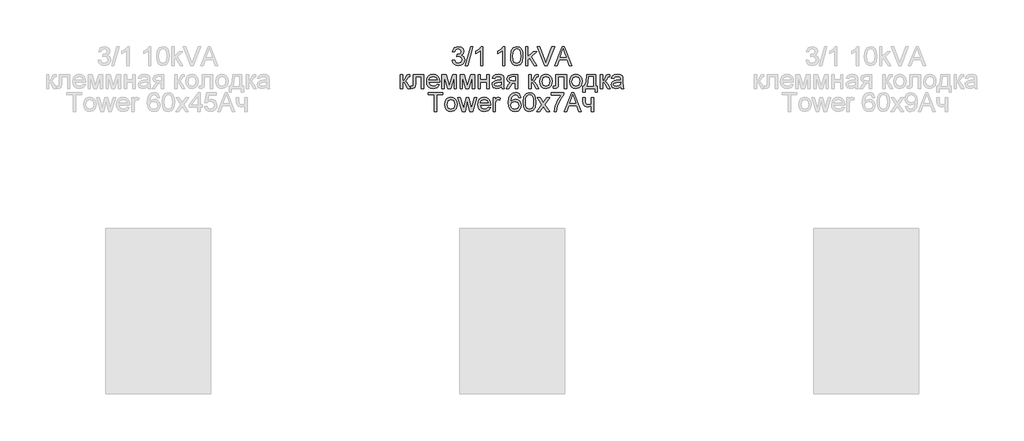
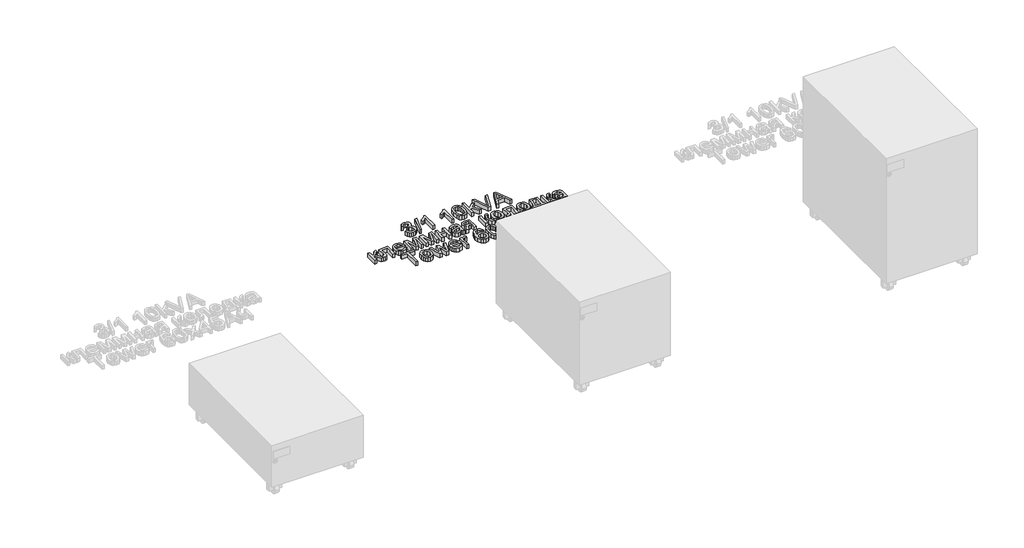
# One storey, part 34 of 74: 1 proxy.
"""IFC4 building model written with IfcOpenShell, lengths in millimetres."""

from ifc_helpers import new_model, si_unit, origin, origin_with_axes, place, context, project, spatial, polyline, outline, extrude, element, save

model = new_model("IFC4")

# Units and contexts
model_context = context("Model", 3, world=origin())
ifc_project = project(units=[si_unit("LENGTHUNIT", "METRE", prefix="MILLI")], contexts=[model_context])

# Site, building, storey
site = spatial("IfcSite", under=ifc_project)
building = spatial("IfcBuilding", under=site)
storey = spatial("IfcBuildingStorey", under=building, Name="Этаж 01", Elevation=0.0)

# Proxy
placement = place(None, origin())
element("IfcBuildingElementProxy", 1, Name="80 мм Arial", ObjectType="80 мм Arial", at=placement, inside=storey, context=model_context, shape_type="SweptSolid", body=[
    extrude(outline(polyline([(2598.3137414, -15105.2863601), (2608.3593724, -15104.0306562), (2613.9021278, -15114.6060373), (2624.2714949, -15117.8433988), (2636.475367, -15113.3895741), (2641.0076732, -15102.3629245), (2636.5146077, -15091.9739369), (2625.0955506, -15087.8634688), (2618.0518367, -15088.9622097), (2619.1701979, -15078.9165786), (2620.7790685, -15079.0343009), (2632.1785053, -15076.150106), (2637.2405615, -15067.2816974), (2633.5715518, -15059.423738), (2624.114532, -15056.3139089), (2614.5397899, -15059.4531685), (2609.6150762, -15068.8709476), (2599.5694452, -15067.6152437), (2607.7903816, -15051.8600842), (2623.7613652, -15046.2682778), (2635.8769456, -15049.0249403), (2644.3529468, -15056.5591635), (2647.2861926, -15066.6930862), (2644.5000996, -15075.9539023), (2636.2595429, -15082.6052088), (2647.2077111, -15089.4723394), (2651.0533042, -15102.5395078), (2649.1305076, -15112.330074), (2643.3621179, -15120.5117696), (2634.6555774, -15126.0447148), (2623.9183282, -15127.8890298), (2614.2062435, -15126.3144949), (2606.2992332, -15121.5908901), (2600.8006236, -15114.3656877), (2598.3137414, -15105.2863601)])), origin_with_axes(), (0.0, 0.0, 1.0), 20.0),
    extrude(outline(polyline([(2654.8204158, -15126.633326), (2677.4230856, -15046.2682778), (2686.487698, -15046.2682778), (2663.8850282, -15126.633326), (2654.8204158, -15126.633326)])), origin_with_axes(), (0.0, 0.0, 1.0), 20.0),
    extrude(outline(polyline([(2728.9069446, -15126.633326), (2718.8613135, -15126.633326), (2718.8613135, -15064.0050951), (2709.3454326, -15070.783934), (2698.7700515, -15075.8558004), (2698.7700515, -15066.3595399), (2713.4951415, -15056.9613812), (2722.4322214, -15046.2682778), (2728.9069446, -15046.2682778), (2728.9069446, -15126.633326)])), origin_with_axes(), (0.0, 0.0, 1.0), 20.0),
    extrude(outline(polyline([(2821.8290314, -15126.633326), (2811.7834004, -15126.633326), (2811.7834004, -15064.0050951), (2802.2675195, -15070.783934), (2791.6921384, -15075.8558004), (2791.6921384, -15066.3595399), (2806.4172284, -15056.9613812), (2815.3543083, -15046.2682778), (2821.8290314, -15046.2682778), (2821.8290314, -15126.633326)])), origin_with_axes(), (0.0, 0.0, 1.0), 20.0),
    extrude(outline(polyline([(2845.6874051, -15087.0982742), (2848.6402712, -15063.9756645), (2857.410578, -15050.643621), (2872.0571865, -15046.2682778), (2883.7901696, -15048.8581671), (2891.8933837, -15056.323719), (2896.6022732, -15068.2136651), (2898.4269679, -15087.0982742), (2895.5035323, -15110.122782), (2886.7626561, -15123.4842561), (2872.0571865, -15127.8890298), (2861.619148, -15125.9760435), (2853.6925173, -15120.2370843), (2847.6886832, -15106.6450709), (2845.6874051, -15087.0982742)]), holes=[polyline([(2855.7330361, -15087.0786538), (2856.9102585, -15102.8804118), (2860.4419257, -15112.0259582), (2872.0571865, -15117.8433988), (2883.6724474, -15112.0063378), (2887.2041145, -15102.8558863), (2888.3813369, -15087.0786538), (2887.2433553, -15071.6325151), (2883.8294104, -15062.4158449), (2878.5809606, -15057.8393929), (2871.9394643, -15056.3139089), (2860.5988886, -15061.6898911), (2856.9494992, -15071.4804572), (2855.7330361, -15087.0786538)])]), origin_with_axes(), (0.0, 0.0, 1.0), 20.0),
    extrude(outline(polyline([(2909.7283028, -15126.633326), (2909.7283028, -15046.2682778), (2919.7739338, -15046.2682778), (2919.7739338, -15089.452719), (2942.2981221, -15067.6152437), (2956.1893463, -15067.6152437), (2933.3904728, -15089.7274042), (2957.4450501, -15126.633326), (2945.712067, -15126.633326), (2926.1897958, -15096.712257), (2919.7739338, -15102.9319153), (2919.7739338, -15126.633326), (2909.7283028, -15126.633326)])), origin_with_axes(), (0.0, 0.0, 1.0), 20.0),
    extrude(outline(polyline([(3032.2182919, -15126.633326), (3064.2976019, -15046.2682778), (3072.8520846, -15046.2682778), (3104.9313946, -15126.633326), (3094.3167727, -15126.633326), (3085.1148177, -15101.5192484), (3052.0152484, -15101.5192484), (3042.8329138, -15126.633326), (3032.2182919, -15126.633326)]), holes=[polyline([(3055.7038785, -15091.4736174), (3081.445808, -15091.4736174), (3074.2058903, -15071.7159017), (3068.5748432, -15056.3139089), (3063.5716481, -15069.9893089), (3055.7038785, -15091.4736174)])]), origin_with_axes(), (0.0, 0.0, 1.0), 20.0),
    extrude(outline(polyline([(2991.2313326, -15126.633326), (2959.2501245, -15046.2682778), (2970.0020889, -15046.2682778), (2991.4079159, -15104.1679988), (2995.7440184, -15117.2155469), (3000.0212597, -15104.1679988), (3021.4859479, -15046.2682778), (3032.2379123, -15046.2682778), (3001.6105099, -15126.633326), (2991.2313326, -15126.633326)])), origin_with_axes(), (0.0, 0.0, 1.0), 20.0),
    extrude(outline(polyline([(2433.1886815, -15165.195098), (2478.3940211, -15165.195098), (2478.3940211, -15224.1543191), (2468.3483901, -15224.1543191), (2468.3483901, -15175.240729), (2443.2343126, -15175.240729), (2443.2343126, -15203.3959644), (2442.5574097, -15216.3846514), (2438.839349, -15221.8685457), (2430.0494219, -15224.2131802), (2421.8873467, -15223.7030505), (2421.8873467, -15214.1675492), (2426.3804121, -15214.1675492), (2430.9225285, -15213.5495075), (2432.737413, -15211.5874702), (2433.1886815, -15202.8269736), (2433.1886815, -15165.195098)])), origin_with_axes(), (0.0, 0.0, 1.0), 20.0),
    extrude(outline(polyline([(2379.1934148, -15165.195098), (2389.2390459, -15165.195098), (2389.2390459, -15190.3091756), (2395.9688338, -15188.5041012), (2401.4821587, -15177.9875813), (2406.0635158, -15168.9131587), (2410.1053126, -15165.9602926), (2417.4531423, -15165.195098), (2419.3759389, -15165.195098), (2419.3759389, -15175.2995902), (2416.6683274, -15175.240729), (2411.7632341, -15176.3002292), (2408.3100485, -15182.9122949), (2404.2584414, -15190.0639209), (2398.5783434, -15193.5661575), (2404.9157239, -15197.4755168), (2411.1353822, -15205.7111684), (2421.8873467, -15224.2131802), (2410.4682895, -15224.2131802), (2399.9321492, -15206.1035759), (2394.6346485, -15198.4418202), (2389.2390459, -15196.5876949), (2389.2390459, -15224.2131802), (2379.1934148, -15224.2131802), (2379.1934148, -15165.195098)])), origin_with_axes(), (0.0, 0.0, 1.0), 20.0),
    extrude(outline(polyline([(2534.7829733, -15206.633326), (2544.6324006, -15207.8890298), (2535.4206355, -15220.8580964), (2518.2626192, -15225.4688841), (2506.4756801, -15223.4798688), (2497.4061626, -15217.5128228), (2491.6230577, -15207.9552486), (2489.695356, -15195.1946485), (2491.642678, -15182.0048527), (2497.4846441, -15172.1407101), (2506.4315342, -15165.9897231), (2517.6936284, -15163.9393941), (2528.6050084, -15165.984818), (2537.3238116, -15172.1210897), (2543.0406979, -15181.9656119), (2544.9463266, -15195.1357873), (2544.8874655, -15197.8433988), (2499.740987, -15197.8433988), (2505.5191869, -15210.8909469), (2518.4588229, -15215.4232531), (2528.3082502, -15213.3238732), (2534.7829733, -15206.633326)]), holes=[polyline([(2499.740987, -15187.7977678), (2534.9006956, -15187.7977678), (2530.8785191, -15178.6939147), (2517.6543876, -15173.9850252), (2505.2837424, -15177.7423266), (2499.740987, -15187.7977678)])]), origin_with_axes(), (0.0, 0.0, 1.0), 20.0),
    extrude(outline(polyline([(2554.9919576, -15165.195098), (2572.2775063, -15165.195098), (2585.5997396, -15212.4409564), (2599.9618527, -15165.195098), (2616.5214476, -15165.195098), (2616.5214476, -15224.2131802), (2606.4758166, -15224.2131802), (2606.4758166, -15176.6926366), (2592.035222, -15224.2131802), (2578.8503313, -15224.2131802), (2565.0375886, -15174.4166734), (2565.0375886, -15224.2131802), (2554.9919576, -15224.2131802), (2554.9919576, -15165.195098)])), origin_with_axes(), (0.0, 0.0, 1.0), 20.0),
    extrude(outline(polyline([(2631.5898941, -15165.195098), (2648.8754428, -15165.195098), (2662.1976761, -15212.4409564), (2676.5597892, -15165.195098), (2693.1193841, -15165.195098), (2693.1193841, -15224.2131802), (2683.073753, -15224.2131802), (2683.073753, -15176.6926366), (2668.6331585, -15224.2131802), (2655.4482678, -15224.2131802), (2641.6355251, -15174.4166734), (2641.6355251, -15224.2131802), (2631.5898941, -15224.2131802), (2631.5898941, -15165.195098)])), origin_with_axes(), (0.0, 0.0, 1.0), 20.0),
    extrude(outline(polyline([(2708.1878306, -15165.195098), (2718.2334616, -15165.195098), (2718.2334616, -15187.7977678), (2744.603243, -15187.7977678), (2744.603243, -15165.195098), (2754.648874, -15165.195098), (2754.648874, -15224.2131802), (2744.603243, -15224.2131802), (2744.603243, -15197.8433988), (2718.2334616, -15197.8433988), (2718.2334616, -15224.2131802), (2708.1878306, -15224.2131802), (2708.1878306, -15165.195098)])), origin_with_axes(), (0.0, 0.0, 1.0), 20.0),
    extrude(outline(polyline([(2807.3884369, -15216.678957), (2797.6469216, -15223.4872264), (2786.885147, -15225.4688841), (2772.2973996, -15220.7011335), (2767.2059128, -15208.5168818), (2769.1287094, -15200.5706307), (2774.1809554, -15194.802241), (2781.2148592, -15191.5060183), (2789.9066844, -15189.9952496), (2807.3295757, -15186.5420639), (2807.3884369, -15184.3053414), (2804.6219643, -15176.8888404), (2793.5168331, -15173.9850252), (2783.3534798, -15175.9176319), (2778.5072477, -15182.7749523), (2768.4616167, -15181.5192484), (2772.8075293, -15171.7090619), (2781.5582157, -15165.9602926), (2794.8117777, -15163.9393941), (2806.9862192, -15165.7248481), (2813.86316, -15170.2081033), (2816.9435585, -15177.026183), (2817.4340679, -15185.8161101), (2817.4340679, -15198.3142878), (2817.9441976, -15215.7666096), (2819.9454756, -15224.2131802), (2809.8998446, -15224.2131802), (2807.3884369, -15216.678957)]), holes=[polyline([(2807.3884369, -15196.5876949), (2791.1820087, -15199.6680935), (2782.5392344, -15201.2965845), (2778.6249699, -15203.9453348), (2777.2515438, -15207.8105483), (2780.2436507, -15213.2453917), (2789.0237677, -15215.4232531), (2799.1871209, -15213.0197574), (2805.7403255, -15207.2023168), (2807.3295757, -15199.432649), (2807.3884369, -15196.5876949)])]), origin_with_axes(), (0.0, 0.0, 1.0), 20.0),
    extrude(outline(polyline([(2876.4521501, -15165.195098), (2876.4521501, -15224.2131802), (2866.4065191, -15224.2131802), (2866.4065191, -15201.6105105), (2860.932435, -15201.6105105), (2853.4766932, -15202.8858347), (2846.47222, -15211.4599377), (2838.4671078, -15224.2131802), (2826.8518469, -15224.2131802), (2836.9367187, -15208.0852336), (2845.4912014, -15199.7269546), (2833.797459, -15193.6250186), (2829.9911066, -15182.2452022), (2835.1905055, -15169.9236079), (2850.2393317, -15165.195098), (2876.4521501, -15165.195098)]), holes=[polyline([(2866.4065191, -15175.240729), (2853.1627672, -15175.240729), (2842.4402334, -15177.5657432), (2840.0367377, -15183.0103968), (2843.578215, -15189.4949301), (2856.1254436, -15191.5648794), (2866.4065191, -15191.5648794), (2866.4065191, -15175.240729)])]), origin_with_axes(), (0.0, 0.0, 1.0), 20.0),
    extrude(outline(polyline([(2922.9131935, -15165.195098), (2932.9588245, -15165.195098), (2932.9588245, -15190.3091756), (2939.6886125, -15188.5041012), (2945.2019373, -15177.9875813), (2949.7832945, -15168.9131587), (2953.8250913, -15165.9602926), (2961.172921, -15165.195098), (2963.0957176, -15165.195098), (2963.0957176, -15175.2995902), (2960.3881061, -15175.240729), (2955.4830128, -15176.3002292), (2952.0298272, -15182.9122949), (2947.9782201, -15190.0639209), (2942.2981221, -15193.5661575), (2948.6355026, -15197.4755168), (2954.8551609, -15205.7111684), (2965.6071253, -15224.2131802), (2954.1880682, -15224.2131802), (2943.6519279, -15206.1035759), (2938.3544271, -15198.4418202), (2932.9588245, -15196.5876949), (2932.9588245, -15224.2131802), (2922.9131935, -15224.2131802), (2922.9131935, -15165.195098)])), origin_with_axes(), (0.0, 0.0, 1.0), 20.0),
    extrude(outline(polyline([(2969.374237, -15194.7041391), (2971.5471933, -15180.4744636), (2978.0660622, -15170.4729784), (2986.1202254, -15165.5727902), (2995.7636388, -15163.9393941), (3006.3169469, -15165.9284095), (3014.7463497, -15171.8954554), (3020.2719373, -15181.3696431), (3022.1137998, -15193.8800835), (3018.8568179, -15211.7542433), (3009.3703675, -15221.8685457), (2995.7636388, -15225.4688841), (2985.0827982, -15223.4872264), (2976.6632056, -15217.5422534), (2971.1964791, -15207.8694095), (2969.374237, -15194.7041391)]), holes=[polyline([(2979.419868, -15194.6845188), (2984.0698964, -15210.2532848), (2995.7636388, -15215.4232531), (3007.4181404, -15210.2238542), (3012.0681688, -15194.3705928), (3007.3887098, -15179.1549935), (2995.7636388, -15173.9850252), (2984.0698964, -15179.1353731), (2979.419868, -15194.6845188)])]), origin_with_axes(), (0.0, 0.0, 1.0), 20.0),
    extrude(outline(polyline([(3038.4379502, -15165.195098), (3083.6432898, -15165.195098), (3083.6432898, -15224.1543191), (3073.5976588, -15224.1543191), (3073.5976588, -15175.240729), (3048.4835812, -15175.240729), (3048.4835812, -15203.3959644), (3047.8066783, -15216.3846514), (3044.0886176, -15221.8685457), (3035.2986905, -15224.2131802), (3027.1366153, -15223.7030505), (3027.1366153, -15214.1675492), (3031.6296807, -15214.1675492), (3036.1717971, -15213.5495075), (3037.9866816, -15211.5874702), (3038.4379502, -15202.8269736), (3038.4379502, -15165.195098)])), origin_with_axes(), (0.0, 0.0, 1.0), 20.0),
    extrude(outline(polyline([(3096.2003285, -15194.7041391), (3098.3732849, -15180.4744636), (3104.8921538, -15170.4729784), (3112.946317, -15165.5727902), (3122.5897303, -15163.9393941), (3133.1430385, -15165.9284095), (3141.5724413, -15171.8954554), (3147.0980288, -15181.3696431), (3148.9398914, -15193.8800835), (3145.6829094, -15211.7542433), (3136.1964591, -15221.8685457), (3122.5897303, -15225.4688841), (3111.9088897, -15223.4872264), (3103.4892971, -15217.5422534), (3098.0225707, -15207.8694095), (3096.2003285, -15194.7041391)]), holes=[polyline([(3106.2459596, -15194.6845188), (3110.895988, -15210.2532848), (3122.5897303, -15215.4232531), (3134.2442319, -15210.2238542), (3138.8942603, -15194.3705928), (3134.2148014, -15179.1549935), (3122.5897303, -15173.9850252), (3110.895988, -15179.1353731), (3106.2459596, -15194.6845188)])]), origin_with_axes(), (0.0, 0.0, 1.0), 20.0),
    extrude(outline(polyline([(3169.0311534, -15165.195098), (3206.7022697, -15165.195098), (3206.7022697, -15214.1675492), (3214.236493, -15214.1675492), (3214.236493, -15240.5373306), (3204.1908619, -15240.5373306), (3204.1908619, -15224.2131802), (3162.752634, -15224.2131802), (3162.752634, -15240.5373306), (3152.707003, -15240.5373306), (3152.707003, -15214.1675492), (3158.9855224, -15214.1675492), (3166.7453799, -15195.0082549), (3169.0311534, -15165.195098)]), holes=[polyline([(3177.8210805, -15175.240729), (3175.4666358, -15198.1278942), (3170.2868573, -15214.1675492), (3196.6566387, -15214.1675492), (3196.6566387, -15175.240729), (3177.8210805, -15175.240729)])]), origin_with_axes(), (0.0, 0.0, 1.0), 20.0),
    extrude(outline(polyline([(3225.5378279, -15165.195098), (3235.5834589, -15165.195098), (3235.5834589, -15190.3091756), (3242.3132468, -15188.5041012), (3247.8265717, -15177.9875813), (3252.4079288, -15168.9131587), (3256.4497256, -15165.9602926), (3263.7975554, -15165.195098), (3265.7203519, -15165.195098), (3265.7203519, -15175.2995902), (3263.0127404, -15175.240729), (3258.1076472, -15176.3002292), (3254.6544615, -15182.9122949), (3250.6028545, -15190.0639209), (3244.9227565, -15193.5661575), (3251.260137, -15197.4755168), (3257.4797952, -15205.7111684), (3268.2317597, -15224.2131802), (3256.8127025, -15224.2131802), (3246.2765622, -15206.1035759), (3240.9790615, -15198.4418202), (3235.5834589, -15196.5876949), (3235.5834589, -15224.2131802), (3225.5378279, -15224.2131802), (3225.5378279, -15165.195098)])), origin_with_axes(), (0.0, 0.0, 1.0), 20.0),
    extrude(outline(polyline([(3312.1813954, -15216.678957), (3302.4398801, -15223.4872264), (3291.6781055, -15225.4688841), (3277.0903581, -15220.7011335), (3271.9988713, -15208.5168818), (3273.9216679, -15200.5706307), (3278.9739139, -15194.802241), (3286.0078177, -15191.5060183), (3294.6996429, -15189.9952496), (3312.1225342, -15186.5420639), (3312.1813954, -15184.3053414), (3309.4149228, -15176.8888404), (3298.3097916, -15173.9850252), (3288.1464383, -15175.9176319), (3283.3002062, -15182.7749523), (3273.2545752, -15181.5192484), (3277.6004878, -15171.7090619), (3286.3511742, -15165.9602926), (3299.6047362, -15163.9393941), (3311.7791777, -15165.7248481), (3318.6561185, -15170.2081033), (3321.736517, -15177.026183), (3322.2270264, -15185.8161101), (3322.2270264, -15198.3142878), (3322.7371561, -15215.7666096), (3324.7384341, -15224.2131802), (3314.6928031, -15224.2131802), (3312.1813954, -15216.678957)]), holes=[polyline([(3312.1813954, -15196.5876949), (3295.9749672, -15199.6680935), (3287.3321929, -15201.2965845), (3283.4179284, -15203.9453348), (3282.0445023, -15207.8105483), (3285.0366092, -15213.2453917), (3293.8167262, -15215.4232531), (3303.9800794, -15213.0197574), (3310.533284, -15207.2023168), (3312.1225342, -15199.432649), (3312.1813954, -15196.5876949)])]), origin_with_axes(), (0.0, 0.0, 1.0), 20.0),
    extrude(outline(polyline([(2522.9715087, -15321.7930345), (2522.9715087, -15251.4736174), (2496.6017273, -15251.4736174), (2496.6017273, -15241.4279864), (2559.3869212, -15241.4279864), (2559.3869212, -15251.4736174), (2533.0171398, -15251.4736174), (2533.0171398, -15321.7930345), (2522.9715087, -15321.7930345)])), origin_with_axes(), (0.0, 0.0, 1.0), 20.0),
    extrude(outline(polyline([(2566.9211444, -15292.2839934), (2569.0941008, -15278.0543178), (2575.6129697, -15268.0528327), (2583.6671329, -15263.1526445), (2593.3105462, -15261.5192484), (2603.8638544, -15263.5082637), (2612.2932572, -15269.4753097), (2617.8188447, -15278.9494974), (2619.6607073, -15291.4599377), (2616.4037253, -15309.3340976), (2606.917275, -15319.4483999), (2593.3105462, -15323.0487384), (2582.6297056, -15321.0670807), (2574.210113, -15315.1221077), (2568.7433866, -15305.4492637), (2566.9211444, -15292.2839934)]), holes=[polyline([(2576.9667754, -15292.264373), (2581.6168039, -15307.8331391), (2593.3105462, -15313.0031074), (2604.9650478, -15307.8037085), (2609.6150762, -15291.9504471), (2604.9356173, -15276.7348477), (2593.3105462, -15271.5648794), (2581.6168039, -15276.7152274), (2576.9667754, -15292.264373)])]), origin_with_axes(), (0.0, 0.0, 1.0), 20.0),
    extrude(outline(polyline([(2640.7526083, -15321.7930345), (2622.799967, -15262.7749523), (2633.2380054, -15262.7749523), (2643.4209791, -15297.208707), (2646.4621369, -15309.510681), (2648.9539243, -15297.6599756), (2657.0571383, -15262.7749523), (2669.0255659, -15262.7749523), (2677.0895393, -15297.5618738), (2679.3066414, -15308.2942178), (2682.4851419, -15296.9732626), (2692.6877359, -15262.7749523), (2703.1650151, -15262.7749523), (2685.0750311, -15321.7930345), (2672.9300202, -15321.7930345), (2665.2192135, -15287.1826964), (2662.982491, -15276.3914912), (2653.0349619, -15321.7930345), (2640.7526083, -15321.7930345)])), origin_with_axes(), (0.0, 0.0, 1.0), 20.0),
    extrude(outline(polyline([(2751.3918921, -15304.2131802), (2761.2413194, -15305.4688841), (2752.0295542, -15318.4379507), (2734.871538, -15323.0487384), (2723.0845988, -15321.0597231), (2714.0150814, -15315.0926771), (2708.2319764, -15305.5351029), (2706.3042748, -15292.7745027), (2708.2515968, -15279.5847069), (2714.0935629, -15269.7205644), (2723.040453, -15263.5695774), (2734.3025471, -15261.5192484), (2745.2139271, -15263.5646723), (2753.9327304, -15269.700944), (2759.6496166, -15279.5454662), (2761.5552453, -15292.7156416), (2761.4963842, -15295.4232531), (2716.3499058, -15295.4232531), (2722.1281057, -15308.4708012), (2735.0677417, -15313.0031074), (2744.917169, -15310.9037275), (2751.3918921, -15304.2131802)]), holes=[polyline([(2716.3499058, -15285.3776221), (2751.5096143, -15285.3776221), (2747.4874379, -15276.273769), (2734.2633064, -15271.5648794), (2721.8926612, -15275.3221809), (2716.3499058, -15285.3776221)])]), origin_with_axes(), (0.0, 0.0, 1.0), 20.0),
    extrude(outline(polyline([(2771.6008764, -15321.7930345), (2771.6008764, -15262.7749523), (2780.3908035, -15262.7749523), (2780.3908035, -15271.5060183), (2786.6300821, -15263.4616654), (2792.9086015, -15261.5192484), (2802.9934733, -15264.6192674), (2799.6383895, -15273.6250186), (2792.5750552, -15271.5648794), (2786.8949572, -15273.5465371), (2783.2749983, -15279.0402416), (2781.6465074, -15290.7732247), (2781.6465074, -15321.7930345), (2771.6008764, -15321.7930345)])), origin_with_axes(), (0.0, 0.0, 1.0), 20.0),
    extrude(outline(polyline([(2889.6370408, -15262.7749523), (2879.5914098, -15264.0306562), (2875.7850574, -15255.6527569), (2865.719806, -15251.4736174), (2856.6551936, -15253.9065437), (2849.7978733, -15263.0398273), (2846.943109, -15280.9434178), (2855.8017074, -15272.9284954), (2866.7793062, -15270.3091756), (2876.0597426, -15272.0995346), (2883.8490307, -15277.4706117), (2889.1318162, -15285.6768328), (2890.8927447, -15295.9726235), (2887.5769016, -15309.8344171), (2878.4534281, -15319.6446037), (2865.2881578, -15323.0487384), (2853.8911736, -15320.7923955), (2844.8142985, -15314.0233668), (2838.8766831, -15302.0745596), (2836.897478, -15284.2788812), (2839.0949597, -15264.2710057), (2845.6874051, -15250.5907006), (2854.6882512, -15243.7186649), (2866.3476579, -15241.4279864), (2875.1621106, -15242.8455583), (2882.2205398, -15247.0982742), (2889.6370408, -15262.7749523)]), holes=[polyline([(2846.943109, -15295.8156606), (2849.2681232, -15304.517296), (2855.4485407, -15310.8350561), (2864.5033429, -15313.0031074), (2876.344238, -15308.5100419), (2880.8471137, -15296.3061699), (2876.4030992, -15284.6222377), (2864.091315, -15280.3548066), (2851.9364939, -15284.6222377), (2846.943109, -15295.8156606)])]), origin_with_axes(), (0.0, 0.0, 1.0), 20.0),
    extrude(outline(polyline([(2899.6826718, -15282.2579828), (2902.635538, -15259.1353731), (2911.4058447, -15245.8033296), (2926.0524532, -15241.4279864), (2937.7854363, -15244.0178756), (2945.8886504, -15251.4834276), (2950.5975399, -15263.3733737), (2952.4222346, -15282.2579828), (2949.498799, -15305.2824906), (2940.7579228, -15318.6439646), (2926.0524532, -15323.0487384), (2915.6144147, -15321.135752), (2907.687784, -15315.3967929), (2901.6839499, -15301.8047794), (2899.6826718, -15282.2579828)]), holes=[polyline([(2909.7283028, -15282.2383624), (2910.9055252, -15298.0401204), (2914.4371924, -15307.1856668), (2926.0524532, -15313.0031074), (2937.6677141, -15307.1660464), (2941.1993812, -15298.0155949), (2942.3766036, -15282.2383624), (2941.238622, -15266.7922237), (2937.8246771, -15257.5755534), (2932.5762273, -15252.9991014), (2925.934731, -15251.4736174), (2914.5941553, -15256.8495996), (2910.944766, -15266.6401658), (2909.7283028, -15282.2383624)])]), origin_with_axes(), (0.0, 0.0, 1.0), 20.0),
    extrude(outline(polyline([(2957.4450501, -15321.7930345), (2978.9097383, -15292.1270304), (2958.700754, -15262.7749523), (2970.7869038, -15262.7749523), (2980.5382293, -15276.9016209), (2985.0901558, -15283.5725478), (2989.0338508, -15278.118084), (3000.138982, -15262.7749523), (3012.2251318, -15262.7749523), (2990.9958881, -15292.1270304), (3011.4403168, -15321.7930345), (2999.354167, -15321.7930345), (2987.0521931, -15303.9581154), (2984.7958502, -15300.7011335), (2969.5312, -15321.7930345), (2957.4450501, -15321.7930345)])), origin_with_axes(), (0.0, 0.0, 1.0), 20.0),
    extrude(outline(polyline([(3017.7188362, -15252.7293213), (3017.7188362, -15242.6836903), (3070.4583991, -15242.6836903), (3070.4583991, -15250.8065247), (3055.4978646, -15272.4183657), (3044.0493769, -15299.9555593), (3040.321506, -15321.7930345), (3030.275875, -15321.7930345), (3034.2686209, -15299.1315036), (3045.2265993, -15273.5171066), (3060.412768, -15252.7293213), (3017.7188362, -15252.7293213)])), origin_with_axes(), (0.0, 0.0, 1.0), 20.0),
    extrude(outline(polyline([(3073.6565199, -15321.7930345), (3105.7358299, -15241.4279864), (3114.2903125, -15241.4279864), (3146.3696225, -15321.7930345), (3135.7550007, -15321.7930345), (3126.5530457, -15296.678957), (3093.4534763, -15296.678957), (3084.2711417, -15321.7930345), (3073.6565199, -15321.7930345)]), holes=[polyline([(3097.1421064, -15286.633326), (3122.8840359, -15286.633326), (3115.6441183, -15266.8756103), (3110.0130712, -15251.4736174), (3105.009876, -15265.1490174), (3097.1421064, -15286.633326)])]), origin_with_axes(), (0.0, 0.0, 1.0), 20.0),
    extrude(outline(polyline([(3152.0791511, -15262.7749523), (3162.1247821, -15262.7749523), (3162.1247821, -15274.0959076), (3162.9390276, -15284.7105294), (3166.853292, -15290.4592987), (3174.6229597, -15292.9118453), (3188.4945635, -15289.8706875), (3188.4945635, -15262.7749523), (3198.5401945, -15262.7749523), (3198.5401945, -15321.7930345), (3188.4945635, -15321.7930345), (3188.4945635, -15299.5042907), (3171.9349686, -15302.9574764), (3160.545342, -15299.3571379), (3153.8449846, -15290.5377802), (3152.0791511, -15279.059862), (3152.0791511, -15262.7749523)])), origin_with_axes(), (0.0, 0.0, 1.0), 20.0),
])

save(model, "model.ifc")
